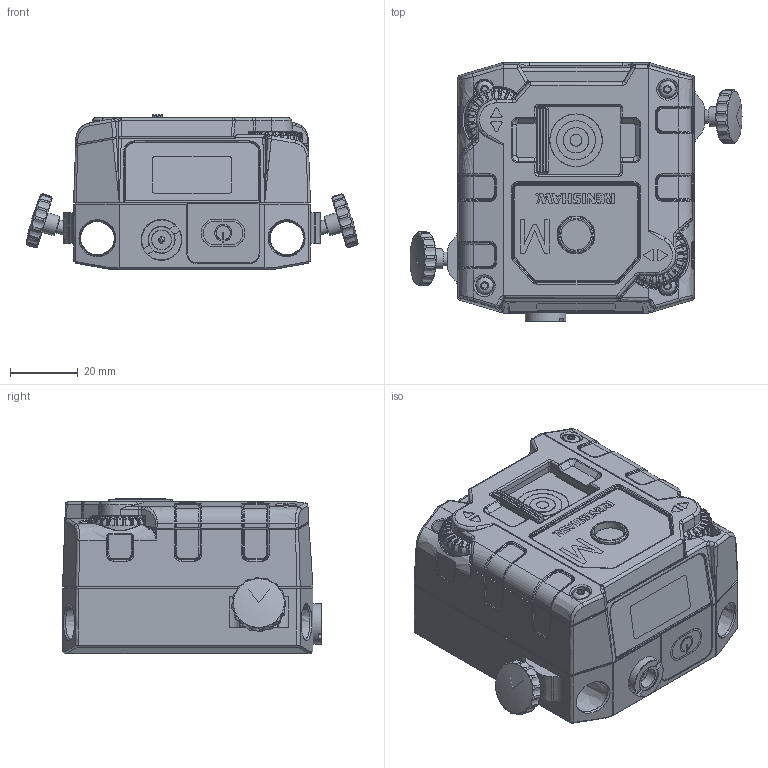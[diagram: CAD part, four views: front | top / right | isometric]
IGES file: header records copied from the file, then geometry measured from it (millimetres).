
Global section: file name: M-9971-0201-01-B_XK20 M UNIT _altrep_M-9971-0201-01-B-alt1_.igs; native system: NX V2312; preprocessor: SIEMENS PLM Software NX2312.8103; date: 20250829.091050; units: millimetre
Bounding box: 98.11 x 76.5 x 45.9 mm (x, y, z)
Surface area: 29648.8 mm2 (no closed solid volume)
Topology: 0 solids, 0 shells, 2154 faces, 12380 edges, 12445 vertices
Faces by surface type: bspline 2154
